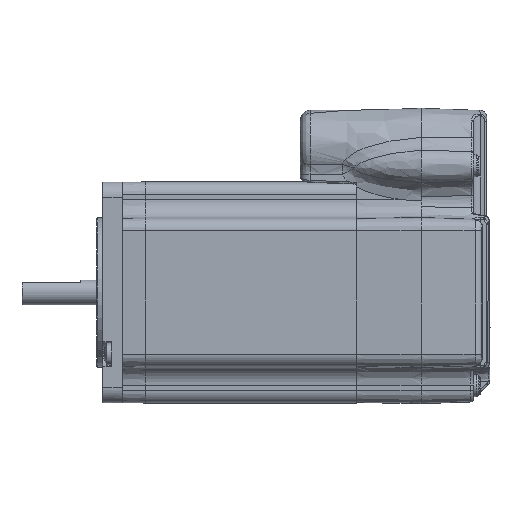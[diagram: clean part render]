
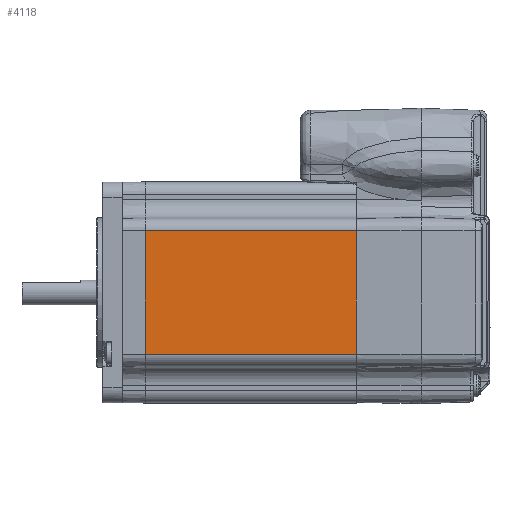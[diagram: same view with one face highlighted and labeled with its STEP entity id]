
A CAD part, left-side view. The second image highlights one B-rep face of the part: STEP entity #4118.
In plain terms, the highlighted planar face has unit normal (-1, 0, 0).
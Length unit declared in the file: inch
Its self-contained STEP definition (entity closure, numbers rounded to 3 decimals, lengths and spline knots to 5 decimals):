
#4118=ADVANCED_FACE('MDrive23Plus,  Triple Stack, P1 (IO PWR, P)  and  P2 (RD or RL 10-Pin)[3]',(#13085),#13086,.T.);
#4477=VERTEX_POINT('',#13506);
#4904=EDGE_CURVE('MDrive23Plus,  Triple Stack, P1 (IO PWR, P)  and  P2 (RD or RL 10-Pin)[3]',#4477,#7167,#13983,.T.);
#7167=VERTEX_POINT('',#16512);
#7313=EDGE_CURVE('MDrive23Plus,  Triple Stack, P1 (IO PWR, P)  and  P2 (RD or RL 10-Pin)[3]',#13035,#7167,#16670,.F.);
#8855=EDGE_CURVE('MDrive23Plus,  Triple Stack, P1 (IO PWR, P)  and  P2 (RD or RL 10-Pin)[3]',#11616,#4477,#18366,.T.);
#9517=EDGE_CURVE('MDrive23Plus,  Triple Stack, P1 (IO PWR, P)  and  P2 (RD or RL 10-Pin)[3]',#13035,#11616,#19096,.T.);
#11616=VERTEX_POINT('',#21419);
#13035=VERTEX_POINT('',#22971);
#13085=FACE_OUTER_BOUND('',#23024,.T.);
#13086=PLANE('',#23025);
#13506=CARTESIAN_POINT('',(-1.96149,1.57521,-0.67063));
#13983=LINE('',#25976,#25977);
#16512=CARTESIAN_POINT('',(-1.96149,3.69297,-0.67063));
#16670=LINE('',#35524,#35525);
#18366=LINE('',#40885,#40886);
#19096=LINE('',#43604,#43605);
#21419=CARTESIAN_POINT('',(-1.96149,1.57521,0.56486));
#22971=CARTESIAN_POINT('',(-1.96149,3.69297,0.56486));
#23024=EDGE_LOOP('',(#56049,#56050,#56051,#56052));
#23025=AXIS2_PLACEMENT_3D('',#56053,#56054,#56055);
#25976=CARTESIAN_POINT('',(-1.96149,1.57521,-0.67063));
#25977=VECTOR('',#56924,1.0);
#35524=CARTESIAN_POINT('',(-1.96149,3.69297,0.28689));
#35525=VECTOR('',#59080,1.0);
#40885=CARTESIAN_POINT('',(-1.96149,1.57521,-0.73244));
#40886=VECTOR('',#60502,1.33373);
#43604=CARTESIAN_POINT('',(-1.96149,1.57521,0.56486));
#43605=VECTOR('',#61069,1.0);
#56049=ORIENTED_EDGE('',*,*,#4904,.F.);
#56050=ORIENTED_EDGE('',*,*,#8855,.F.);
#56051=ORIENTED_EDGE('',*,*,#9517,.F.);
#56052=ORIENTED_EDGE('',*,*,#7313,.T.);
#56053=CARTESIAN_POINT('',(-1.96149,1.57521,0.62667));
#56054=DIRECTION('',(-1.0,0.0,0.0));
#56055=DIRECTION('',(0.0,0.0,1.0));
#56924=DIRECTION('',(0.0,1.0,0.0));
#59080=DIRECTION('',(0.0,0.0,1.0));
#60502=DIRECTION('',(0.0,0.0,-1.0));
#61069=DIRECTION('',(0.0,-1.0,0.0));
